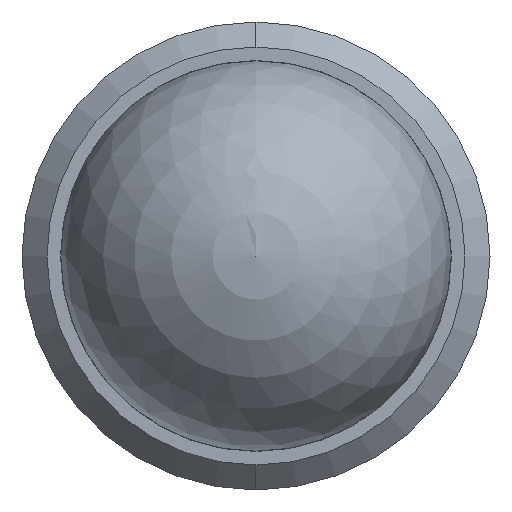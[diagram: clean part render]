
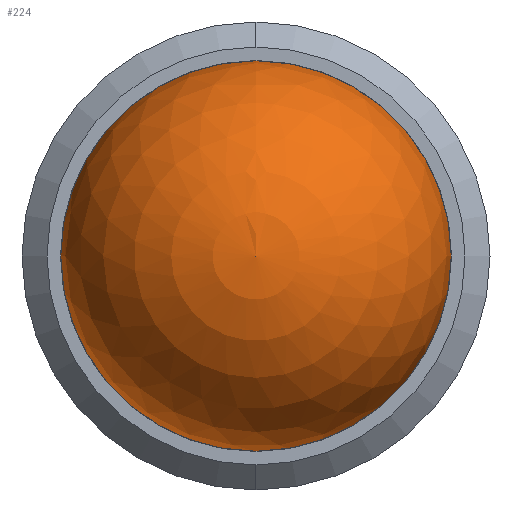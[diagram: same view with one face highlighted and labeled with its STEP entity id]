
A CAD part, left-side view. The second image highlights one B-rep face of the part: STEP entity #224.
In plain terms, the highlighted spherical face has radius 1.984 mm.
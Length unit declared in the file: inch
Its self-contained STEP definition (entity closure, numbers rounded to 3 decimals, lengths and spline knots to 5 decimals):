
#15 = EDGE_CURVE ( 'NONE', #520, #346, #311, .T. ) ;
#16 = FACE_OUTER_BOUND ( 'NONE', #482, .T. ) ;
#76 = EDGE_CURVE ( 'NONE', #520, #346, #269, .T. ) ;
#128 = CARTESIAN_POINT ( 'NONE',  ( 0., 0.07813, 0. ) ) ;
#171 = SPHERICAL_SURFACE ( 'NONE', #525, 0.07813 ) ;
#224 = ADVANCED_FACE ( 'NONE', ( #16 ), #171, .T. ) ;
#269 = CIRCLE ( 'NONE', #616, 0.07813 ) ;
#311 = CIRCLE ( 'NONE', #624, 0.07813 ) ;
#346 = VERTEX_POINT ( 'NONE', #444 ) ;
#361 = ORIENTED_EDGE ( 'NONE', *, *, #15, .T. ) ;
#395 = DIRECTION ( 'NONE',  ( 0., 0., 1. ) ) ;
#405 = CARTESIAN_POINT ( 'NONE',  ( 0., 0., 0. ) ) ;
#430 = DIRECTION ( 'NONE',  ( 1., 0., 0. ) ) ;
#444 = CARTESIAN_POINT ( 'NONE',  ( 0., -0.07813, 0. ) ) ;
#456 = DIRECTION ( 'NONE',  ( 0., 0., 1. ) ) ;
#457 = DIRECTION ( 'NONE',  ( 0., 0., -1. ) ) ;
#471 = DIRECTION ( 'NONE',  ( -1., 0., 0. ) ) ;
#473 = ORIENTED_EDGE ( 'NONE', *, *, #76, .F. ) ;
#482 = EDGE_LOOP ( 'NONE', ( #473, #361 ) ) ;
#520 = VERTEX_POINT ( 'NONE', #128 ) ;
#525 = AXIS2_PLACEMENT_3D ( 'NONE', #627, #555, #395 ) ;
#555 = DIRECTION ( 'NONE',  ( -1., 0., 0. ) ) ;
#616 = AXIS2_PLACEMENT_3D ( 'NONE', #620, #430, #457 ) ;
#620 = CARTESIAN_POINT ( 'NONE',  ( 0., 0., 0. ) ) ;
#624 = AXIS2_PLACEMENT_3D ( 'NONE', #405, #471, #456 ) ;
#627 = CARTESIAN_POINT ( 'NONE',  ( 0., 0., 0. ) ) ;
